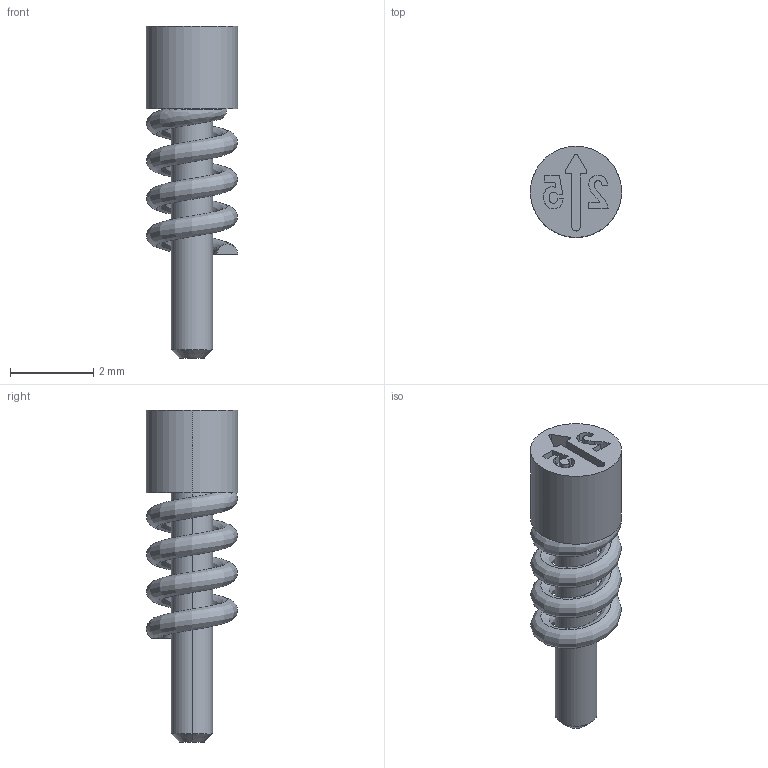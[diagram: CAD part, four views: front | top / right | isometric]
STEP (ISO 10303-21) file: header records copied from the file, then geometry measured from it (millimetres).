
FILE_DESCRIPTION (( 'STEP AP214' ), '1' );
FILE_NAME ('DCP04-25.STEP', '2024-08-05T17:08:18', ( '' ), ( '' ), 'SwSTEP 2.0', 'SolidWorks 2017', '' );
FILE_SCHEMA (( 'AUTOMOTIVE_DESIGN' ));
Length unit declared in the file: millimetre
Products named in the file (1): DCP04-25
Bounding box: 2.2 x 2.2 x 8 mm (x, y, z)
Volume: 16 mm3; surface area: 75.6 mm2
Topology: 2 solids, 2 shells, 58 faces, 148 edges, 98 vertices
Faces by surface type: plane 27, bspline 20, cylinder 9, cone 2
Entity records: 4295 total; most frequent: CARTESIAN_POINT 2335, ORIENTED_EDGE 296, DIRECTION 204, EDGE_CURVE 148, VERTEX_POINT 98, VECTOR 82, LINE 82, UNCERTAINTY_MEASURE_WITH_UNIT 62
